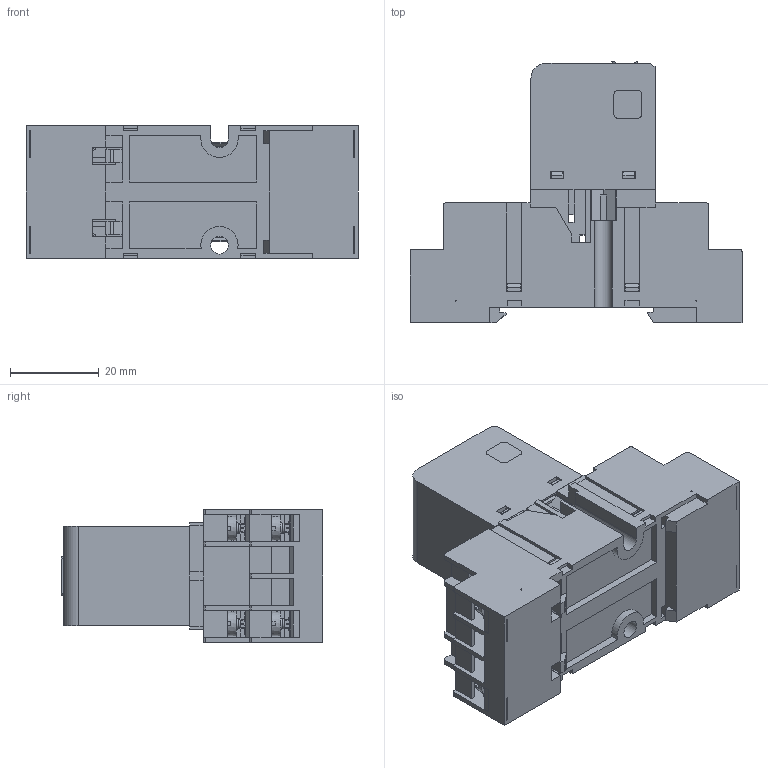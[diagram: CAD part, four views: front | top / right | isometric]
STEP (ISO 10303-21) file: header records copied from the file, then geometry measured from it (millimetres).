
FILE_DESCRIPTION(('STEP AP214'), '1');
FILE_NAME('Ðåëå ìîäóëüíîå ÐÏ30Õ-002 (áåç ìîäóëÿ) (íà ïîêàç)', '', ('UNSPECIFIED'), ('UNSPECIFIED'), 'ASCON STEP Converter 1.6', 'ASCON Math Kernel', '');
FILE_SCHEMA(('AUTOMOTIVE_DESIGN { 1 0 10303 214 3 1 1}'));
Length unit declared in the file: millimetre
Bounding box: 74.9 x 59 x 30 mm (x, y, z)
Volume: 19540.4 mm3; surface area: 34327.3 mm2
Topology: 10 solids, 10 shells, 2727 faces, 7829 edges, 5028 vertices
Faces by surface type: plane 2072, cylinder 406, torus 112, bspline 80, cone 57
Full cylindrical faces by diameter (mm): 0.6 x2, 2.3 x8, 3 x17, 3.54 x8, 4 x1, 4.5 x14
Entity records: 124348 total; most frequent: CARTESIAN_POINT 32878, ORIENTED_EDGE 15476, DIRECTION 12896, EDGE_CURVE 7738, LINE 5736, VECTOR 5736, VERTEX_POINT 5028, AXIS2_PLACEMENT_3D 3580
